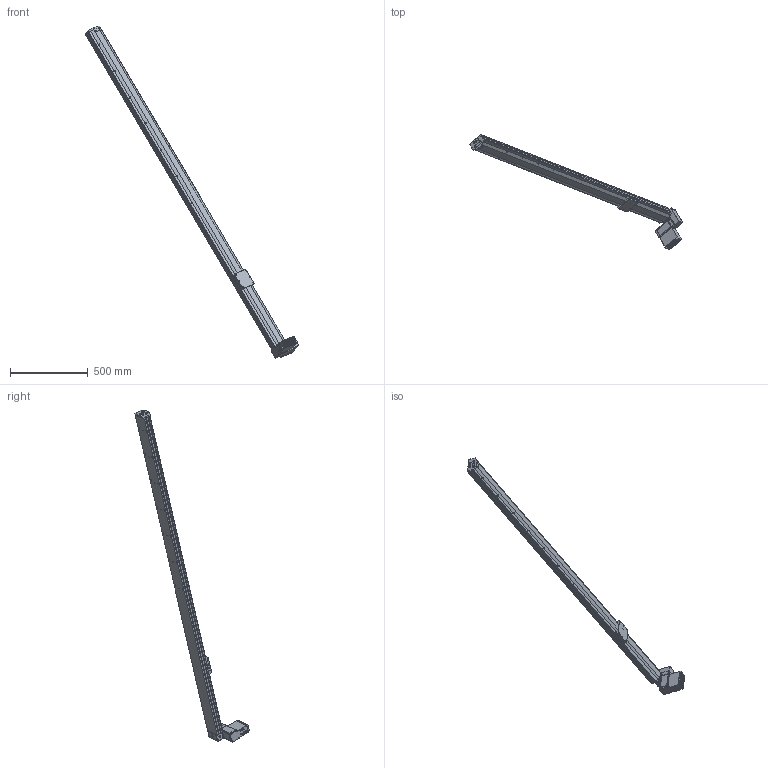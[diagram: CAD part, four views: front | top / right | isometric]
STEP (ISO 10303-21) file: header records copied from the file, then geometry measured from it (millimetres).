
FILE_DESCRIPTION (( 'STEP AP203' ), '1' );
FILE_NAME ('S10 CBH RT S2400.STEP', '2012-10-01T11:57:07', ( '' ), ( '' ), 'SwSTEP 2.0', 'SolidWorks 2010', '' );
FILE_SCHEMA (( 'CONFIG_CONTROL_DESIGN' ));
Length unit declared in the file: millimetre
Products named in the file (9): moteur M3_1; moteur M3; Plaque racord_; S10 CBH RT S2400; embout; plaque de bout; palette tbh; MOTEUR GMI 61 ; axe 2400
Assembly tree (7 placements, depth 3):
  moteur M3
  S10 CBH RT S2400
    palette tbh
    MOTEUR GMI 61 
    plaque de bout
      moteur M3_1
      Plaque racord_
    embout
    axe 2400
Bounding box: 1372.94 x 735.99 x 2132.66 mm (x, y, z)
Volume: 13415572.3 mm3; surface area: 1283780.5 mm2
Topology: 5 solids, 18 shells, 785 faces, 2048 edges, 1288 vertices
Faces by surface type: plane 381, cylinder 295, cone 74, torus 23, bspline 8, sphere 4
Entity records: 27225 total; most frequent: CARTESIAN_POINT 6989, DIRECTION 4087, ORIENTED_EDGE 3848, EDGE_CURVE 1974, AXIS2_PLACEMENT_3D 1414, VERTEX_POINT 1288, VECTOR 1259, LINE 1259
